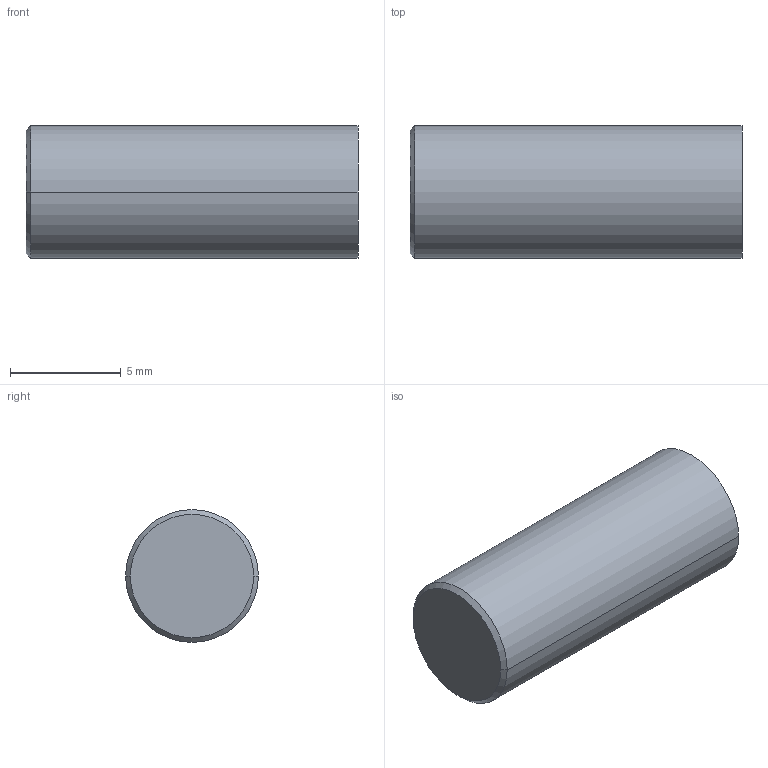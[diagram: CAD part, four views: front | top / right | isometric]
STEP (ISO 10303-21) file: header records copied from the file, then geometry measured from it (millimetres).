
FILE_DESCRIPTION( ( '' ), '1' );
FILE_NAME( 'C:/Users/trg/Desktop/Low_pressure_diecasting or Vacuum casting/SME 03-0615(2).stp', '2014-12-15T09:08:04', ( '' ), ( '' ), ' ', ' ', ' ' );
FILE_SCHEMA( ( 'CONFIG_CONTROL_DESIGN' ) );
Length unit declared in the file: millimetre
Products named in the file (1): 1
Bounding box: 15 x 6 x 6 mm (x, y, z)
Volume: 423.7 mm3; surface area: 336.9 mm2
Topology: 1 solids, 1 shells, 6 faces, 10 edges, 6 vertices
Faces by surface type: cone 2, cylinder 2, plane 2
Entity records: 189 total; most frequent: DIRECTION 30, CARTESIAN_POINT 23, ORIENTED_EDGE 20, AXIS2_PLACEMENT_3D 13, EDGE_CURVE 10, ADVANCED_FACE 6, FACE_OUTER_BOUND 6, EDGE_LOOP 6
